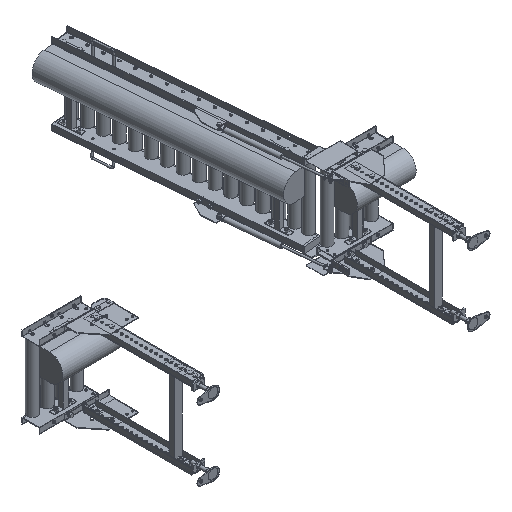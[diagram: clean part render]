
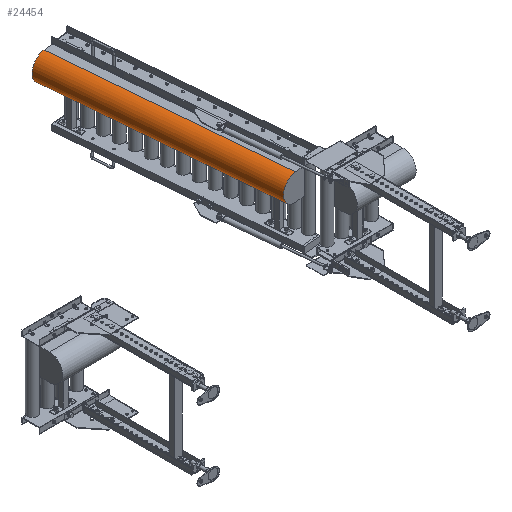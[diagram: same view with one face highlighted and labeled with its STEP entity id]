
A CAD part, isometric view. The second image highlights one B-rep face of the part: STEP entity #24454.
In plain terms, the highlighted cylindrical face has radius 66.89 mm (diameter 133.78 mm), a partial arc.
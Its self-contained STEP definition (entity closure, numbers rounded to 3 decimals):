
#610 = ORIENTED_EDGE ( 'NONE', *, *, #56005, .F. ) ;
#668 = CIRCLE ( 'NONE', #35217, 66.89 ) ;
#881 = EDGE_CURVE ( 'NONE', #47211, #62915, #668, .T. ) ;
#2394 = DIRECTION ( 'NONE',  ( -0.087, 0.996, 0. ) ) ;
#7752 = DIRECTION ( 'NONE',  ( 0., 0., 1. ) ) ;
#8389 = CARTESIAN_POINT ( 'NONE',  ( -63.444, -158.438, 112.61 ) ) ;
#9775 = DIRECTION ( 'NONE',  ( 0.087, -0.996, 0. ) ) ;
#10736 = DIRECTION ( 'NONE',  ( -0.087, 0.996, 0. ) ) ;
#12136 = AXIS2_PLACEMENT_3D ( 'NONE', #8389, #2394, #38783 ) ;
#15561 = CARTESIAN_POINT ( 'NONE',  ( -63.444, -158.438, 179.5 ) ) ;
#17786 = CARTESIAN_POINT ( 'NONE',  ( -63.444, -158.438, 45.72 ) ) ;
#18605 = EDGE_CURVE ( 'NONE', #46590, #47211, #51400, .T. ) ;
#19883 = ORIENTED_EDGE ( 'NONE', *, *, #881, .T. ) ;
#24454 = ADVANCED_FACE ( 'NONE', ( #55518 ), #45243, .T. ) ;
#28006 = CARTESIAN_POINT ( 'NONE',  ( -78.917, 18.539, 45.72 ) ) ;
#28531 = LINE ( 'NONE', #17786, #63100 ) ;
#29604 = ORIENTED_EDGE ( 'NONE', *, *, #18605, .T. ) ;
#30739 = CARTESIAN_POINT ( 'NONE',  ( -78.917, 18.539, 179.5 ) ) ;
#35217 = AXIS2_PLACEMENT_3D ( 'NONE', #44396, #62111, #7752 ) ;
#38288 = EDGE_CURVE ( 'NONE', #46590, #64219, #64570, .T. ) ;
#38783 = DIRECTION ( 'NONE',  ( 0., 0., 1. ) ) ;
#44396 = CARTESIAN_POINT ( 'NONE',  ( -181.863, 1196.047, 112.61 ) ) ;
#45243 = CYLINDRICAL_SURFACE ( 'NONE', #12136, 66.89 ) ;
#46590 = VERTEX_POINT ( 'NONE', #30739 ) ;
#47211 = VERTEX_POINT ( 'NONE', #59636 ) ;
#48565 = ORIENTED_EDGE ( 'NONE', *, *, #38288, .F. ) ;
#51399 = DIRECTION ( 'NONE',  ( 0., 0., -1. ) ) ;
#51400 = LINE ( 'NONE', #15561, #70997 ) ;
#55518 = FACE_OUTER_BOUND ( 'NONE', #71595, .T. ) ;
#56005 = EDGE_CURVE ( 'NONE', #64219, #62915, #28531, .T. ) ;
#57865 = CARTESIAN_POINT ( 'NONE',  ( -78.917, 18.539, 112.61 ) ) ;
#59636 = CARTESIAN_POINT ( 'NONE',  ( -181.863, 1196.047, 179.5 ) ) ;
#62111 = DIRECTION ( 'NONE',  ( 0.087, -0.996, 0. ) ) ;
#62915 = VERTEX_POINT ( 'NONE', #63150 ) ;
#63100 = VECTOR ( 'NONE', #10736, 1000. ) ;
#63150 = CARTESIAN_POINT ( 'NONE',  ( -181.863, 1196.047, 45.72 ) ) ;
#64219 = VERTEX_POINT ( 'NONE', #28006 ) ;
#64570 = CIRCLE ( 'NONE', #69125, 66.89 ) ;
#69125 = AXIS2_PLACEMENT_3D ( 'NONE', #57865, #9775, #51399 ) ;
#69367 = DIRECTION ( 'NONE',  ( -0.087, 0.996, 0. ) ) ;
#70997 = VECTOR ( 'NONE', #69367, 1000. ) ;
#71595 = EDGE_LOOP ( 'NONE', ( #48565, #29604, #19883, #610 ) ) ;
